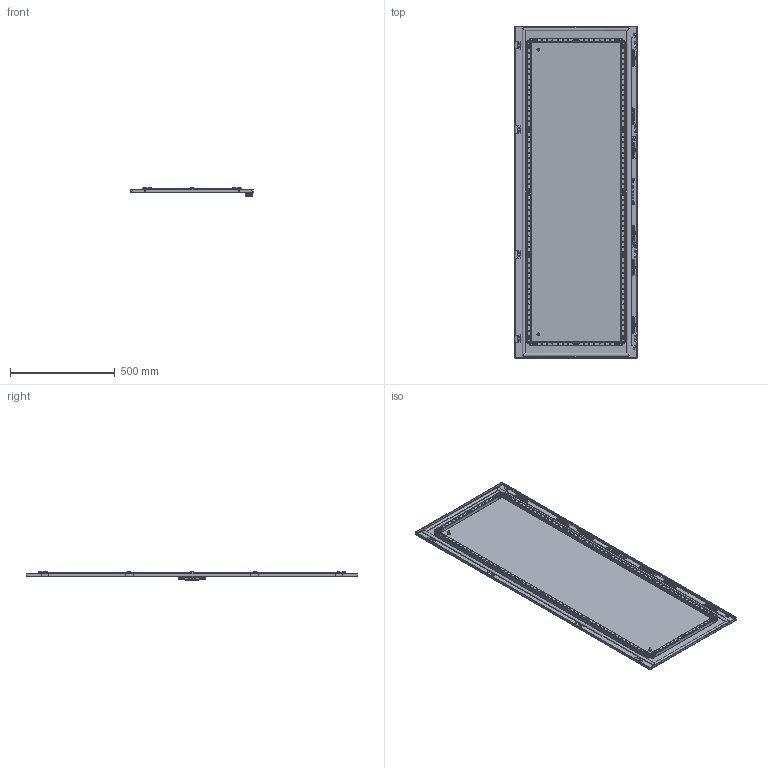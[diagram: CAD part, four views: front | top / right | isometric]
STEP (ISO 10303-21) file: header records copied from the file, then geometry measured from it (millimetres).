
FILE_DESCRIPTION(('STEP AP203'), '1');
FILE_NAME('Äâåðü îäíîñòâîð÷àòàÿ ãëóõàÿ 1600õ600 ìì IP55 OptiBox M 419625 ÊÝÀÇ', '', ('UNSPECIFIED'), ('UNSPECIFIED'), 'C3D Converter', 'C3D Toolkit', '');
FILE_SCHEMA(('CONFIG_CONTROL_DESIGN'));
Length unit declared in the file: millimetre
Bounding box: 586.4 x 1586.4 x 41.85 mm (x, y, z)
Volume: 2847082.7 mm3; surface area: 2761439.4 mm2
Topology: 72 solids, 72 shells, 5883 faces, 14730 edges, 8754 vertices
Faces by surface type: plane 2408, cylinder 2106, bspline 466, sphere 424, torus 294, cone 185
Full cylindrical faces by diameter (mm): 0.75 x18, 1 x32, 1.3 x11, 1.6 x4, 4 x2, 4.2 x2, 4.5 x2, 4.6 x144, 5 x16, 5.2 x1, 6 x28, 6.4 x16, 7 x8, 7.5 x22, 7.7 x5, 8 x18, 8.5 x1, 9 x2, 9.3 x2, 10 x16, 11 x2, 13 x2, 13.05 x1, 14.7 x5, 15.3 x5, 16.3 x1, 20.7 x1
Entity records: 286493 total; most frequent: CARTESIAN_POINT 106135, ORIENTED_EDGE 27754, DIRECTION 26997, EDGE_CURVE 13877, AXIS2_PLACEMENT_3D 9742, VERTEX_POINT 8728, LINE 7513, VECTOR 7513
